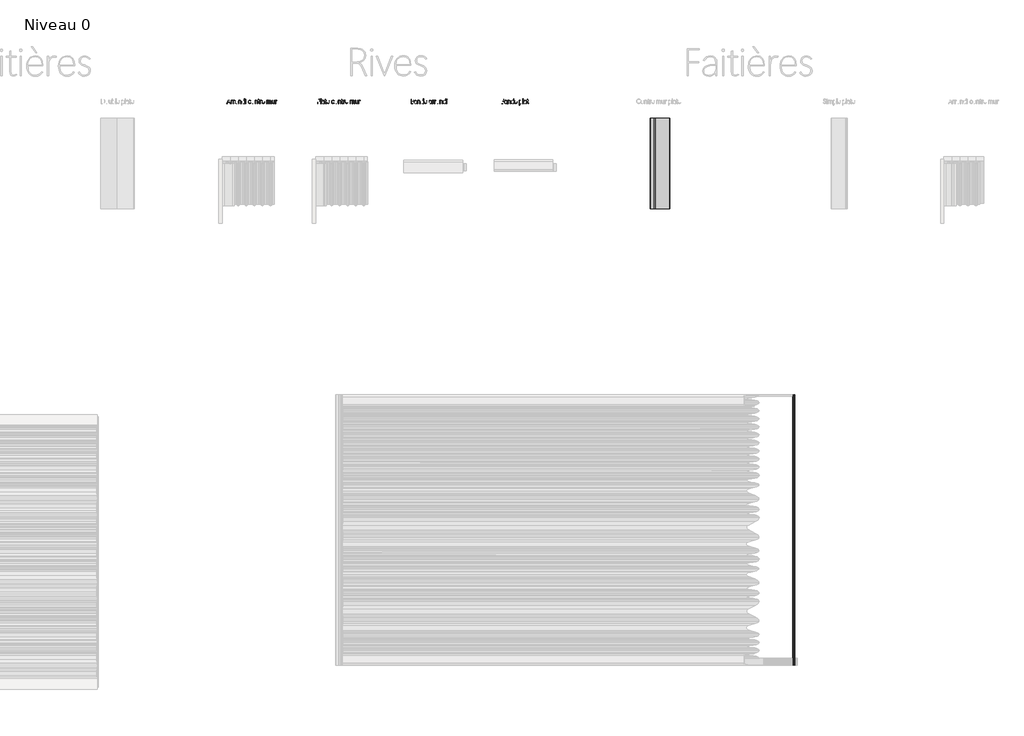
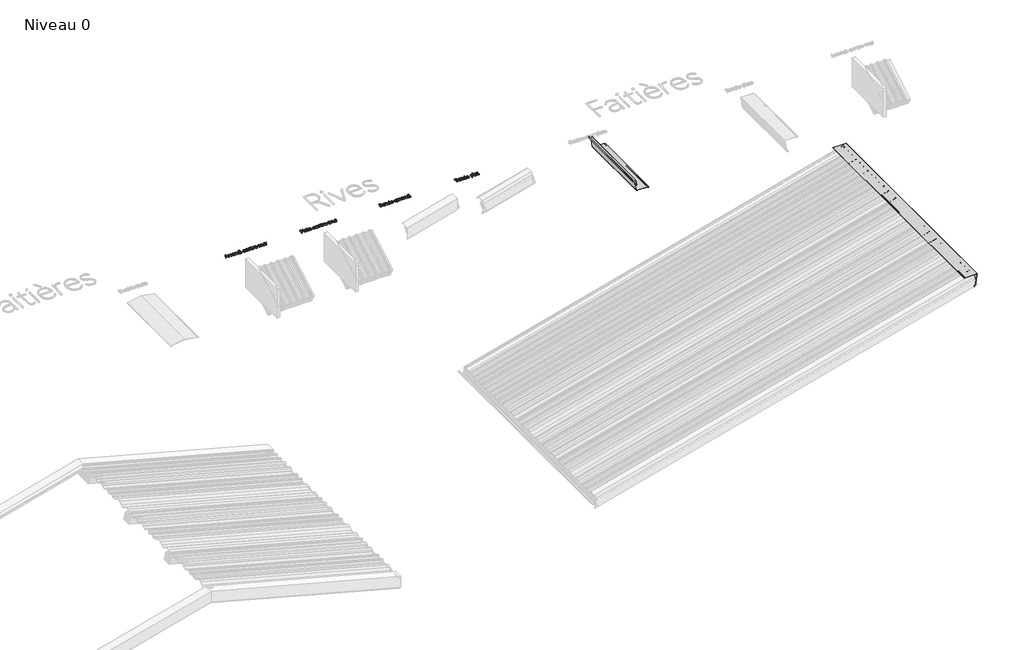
# One storey, part 19 of 26: 6 proxies.
"""IFC4 building model written with IfcOpenShell, lengths in millimetres."""

import ifcopenshell
import ifcopenshell.guid

model = None  # the IFC model being written
_history = None  # IfcOwnerHistory: only IFC2X3 demands one
_inside = {}  # id of a spatial element -> (the spatial element, [elements in it])
_under = {}  # id of a project, library or spatial element -> (it, [spatial elements below it])
_declared = {}  # id of a project -> (the project, [libraries it declares])
_typed = {}  # id of a type object -> (the type object, [elements of that type])
_made_of = {}  # id of a material, layer set ... -> (it, [elements and type objects made of it])


def new_model(schema):
    """Start an empty IFC model of exactly this schema.

    Asked for "IFC4X3", IfcOpenShell would pick the latest addendum, in which some entities
    have other attributes; the version numbers below select the first issue.
    IFC2X3 requires an IfcOwnerHistory on every rooted entity: one is made here for all.
    """
    global model, _history
    if schema == "IFC4X3":
        model = ifcopenshell.file(schema_version=(4, 3, 0, 0))
    else:
        model = ifcopenshell.file(schema=schema)
    _inside.clear()
    _under.clear()
    _declared.clear()
    _typed.clear()
    _made_of.clear()
    _history = None
    if model.schema == "IFC2X3":
        org = make("IfcOrganization", Name="unknown")
        user = make(
            "IfcPersonAndOrganization",
            ThePerson=make("IfcPerson", FamilyName="unknown"),
            TheOrganization=org,
        )
        app = make(
            "IfcApplication",
            ApplicationDeveloper=org,
            Version="unknown",
            ApplicationFullName="unknown",
            ApplicationIdentifier="unknown",
        )
        _history = make(
            "IfcOwnerHistory",
            OwningUser=user,
            OwningApplication=app,
            ChangeAction="ADDED",
            CreationDate=0,
        )
    return model


def make(cls, **values):
    """One entity of the class cls with the attributes given. An attribute that is None is left unset."""
    return model.create_entity(
        cls, **{name: value for name, value in values.items() if value is not None}
    )


def rooted(cls, **values):
    """An entity with a GlobalId (a new one), such as an element, a storey or a relation."""
    return make(cls, GlobalId=ifcopenshell.guid.new(), OwnerHistory=_history, **values)


def si_unit(unit_type, name, prefix=None):
    """IfcSIUnit, for example si_unit("LENGTHUNIT", "METRE", prefix="MILLI")."""
    return make("IfcSIUnit", UnitType=unit_type, Prefix=prefix, Name=name)


def assignment(units):
    """IfcUnitAssignment: the units of a project."""
    return None if units is None else make("IfcUnitAssignment", Units=units)


def point(xyz):
    """IfcCartesianPoint."""
    return None if xyz is None else make("IfcCartesianPoint", Coordinates=xyz)


def direction(xyz):
    """IfcDirection."""
    return None if xyz is None else make("IfcDirection", DirectionRatios=xyz)


def frame(location, z_axis=None, x_axis=None):
    """IfcAxis2Placement3D, a coordinate frame: its origin and axes. An axis left out is left unset."""
    return make(
        "IfcAxis2Placement3D",
        Location=point(location),
        Axis=direction(z_axis),
        RefDirection=direction(x_axis),
    )


def frame_2d(location, x_axis=None):
    """IfcAxis2Placement2D, a coordinate frame in the plane: its origin and x axis."""
    return make(
        "IfcAxis2Placement2D", Location=point(location), RefDirection=direction(x_axis)
    )


def origin():
    """The frame at (0, 0, 0) with its axes left unset."""
    return frame((0.0, 0.0, 0.0))


def origin_with_axes():
    """The frame at (0, 0, 0) with the z axis (0, 0, 1) and the x axis (1, 0, 0) written out."""
    return frame((0.0, 0.0, 0.0), z_axis=(0.0, 0.0, 1.0), x_axis=(1.0, 0.0, 0.0))


def place(relative_to, where):
    """IfcLocalPlacement: puts the frame where relative to a parent placement (None: the world)."""
    return make(
        "IfcLocalPlacement", PlacementRelTo=relative_to, RelativePlacement=where
    )


def context(
    kind, dimensions, precision=None, world=None, true_north=None, identifier=None
):
    """IfcGeometricRepresentationContext, for example the 3D "Model" context."""
    return make(
        "IfcGeometricRepresentationContext",
        ContextIdentifier=identifier,
        ContextType=kind,
        CoordinateSpaceDimension=dimensions,
        Precision=precision,
        WorldCoordinateSystem=world,
        TrueNorth=true_north,
    )


def project(units=None, contexts=None):
    """IfcProject with its units and contexts."""
    return rooted(
        "IfcProject",
        Name="project",
        RepresentationContexts=contexts,
        UnitsInContext=assignment(units),
    )


def spatial(cls, under=None, at=None, **own):
    """A site, building, storey or space (cls), placed at a placement, below another one or the project."""
    s = rooted(cls, ObjectPlacement=at, **own)
    if under is not None:
        _under.setdefault(under.id(), (under, []))[1].append(s)
    return s


def polyline(points):
    """IfcPolyline through the points."""
    return make("IfcPolyline", Points=[point(p) for p in points])


def circle_curve(where, radius):
    """IfcCircle in the frame where."""
    return make("IfcCircle", Position=where, Radius=radius)


def trimmed(basis, trim1, trim2, sense, master):
    """IfcTrimmedCurve: the piece of a basis curve between two trims."""
    return make(
        "IfcTrimmedCurve",
        BasisCurve=basis,
        Trim1=trim1,
        Trim2=trim2,
        SenseAgreement=sense,
        MasterRepresentation=master,
    )


def segment(curve, same_sense, transition):
    """IfcCompositeCurveSegment."""
    return make(
        "IfcCompositeCurveSegment",
        Transition=transition,
        SameSense=same_sense,
        ParentCurve=curve,
    )


def composite_curve(segments, self_intersect=None):
    """IfcCompositeCurve: segments joined end to end."""
    return make("IfcCompositeCurve", Segments=segments, SelfIntersect=self_intersect)


def outline(outer, holes=None, kind="AREA"):
    """IfcArbitraryClosedProfileDef: a profile drawn as a closed curve; with holes, ...WithVoids."""
    if holes is None:
        return make("IfcArbitraryClosedProfileDef", ProfileType=kind, OuterCurve=outer)
    return make(
        "IfcArbitraryProfileDefWithVoids",
        ProfileType=kind,
        OuterCurve=outer,
        InnerCurves=holes,
    )


def extrude(swept, where, along, depth):
    """IfcExtrudedAreaSolid: the profile swept, set in the frame where, extruded along a direction by depth."""
    return make(
        "IfcExtrudedAreaSolid",
        SweptArea=swept,
        Position=where,
        ExtrudedDirection=direction(along),
        Depth=depth,
    )


def shape(context_of_items, identifier, shape_type, items):
    """IfcShapeRepresentation: the items that make up one representation, for example the "Body"."""
    return make(
        "IfcShapeRepresentation",
        ContextOfItems=context_of_items,
        RepresentationIdentifier=identifier,
        RepresentationType=shape_type,
        Items=items,
    )


def source(mapping_origin, context_of_items, identifier, shape_type, items):
    """IfcRepresentationMap: a shape defined once, which mapped items show again and again."""
    return make(
        "IfcRepresentationMap",
        MappingOrigin=mapping_origin,
        MappedRepresentation=shape(context_of_items, identifier, shape_type, items),
    )


def transform(
    local_origin,
    x_axis=None,
    y_axis=None,
    z_axis=None,
    scale=None,
    scale2=None,
    scale3=None,
    uniform=True,
):
    """IfcCartesianTransformationOperator3D, or its non-uniform kind. x_axis, y_axis, z_axis: its Axis1, 2, 3."""
    if uniform:
        return make(
            "IfcCartesianTransformationOperator3D",
            Axis1=direction(x_axis),
            Axis2=direction(y_axis),
            LocalOrigin=point(local_origin),
            Scale=scale,
            Axis3=direction(z_axis),
        )
    return make(
        "IfcCartesianTransformationOperator3DnonUniform",
        Axis1=direction(x_axis),
        Axis2=direction(y_axis),
        LocalOrigin=point(local_origin),
        Scale=scale,
        Axis3=direction(z_axis),
        Scale2=scale2,
        Scale3=scale3,
    )


def mapped(mapping_source, mapping_target):
    """IfcMappedItem: shows the shape of a source again, moved by a transform."""
    return make(
        "IfcMappedItem", MappingSource=mapping_source, MappingTarget=mapping_target
    )


def made_of(thing, what):
    """Note that an element or type object is made of a material, layer set ...; save() writes the relation."""
    if what is not None:
        _made_of.setdefault(what.id(), (what, []))[1].append(thing)
    return thing


def element(
    cls,
    number,
    at=None,
    inside=None,
    cuts=None,
    type_object=None,
    material=None,
    context=None,
    identifier="Body",
    shape_type=None,
    held_by="IfcProductDefinitionShape",
    body=None,
    shapes=None,
    **own,
):
    """One element of the class cls, such as IfcWall. Its Tag is "e" and its number.

    at: its placement. inside: the storey or other place that contains it. cuts: it is an
    opening in that element (IfcRelVoidsElement). A single representation is given by context,
    identifier, shape_type and body (its items); several are given by shapes. held_by: the class
    of the entity that holds the representations. save() writes the other relations.
    """
    e = rooted(cls, Tag="e%d" % number, ObjectPlacement=at, **own)
    if body is not None:
        shapes = [shape(context, identifier, shape_type, body)]
    if shapes is not None:
        e.Representation = make(held_by, Representations=shapes)
    if inside is not None:
        _inside.setdefault(inside.id(), (inside, []))[1].append(e)
    if cuts is not None:
        rooted(
            "IfcRelVoidsElement", RelatingBuildingElement=cuts, RelatedOpeningElement=e
        )
    if type_object is not None:
        _typed.setdefault(type_object.id(), (type_object, []))[1].append(e)
    return made_of(e, material)


def aggregate(whole, parts):
    """IfcRelAggregates: a whole, such as a stair, and the parts it consists of."""
    return rooted("IfcRelAggregates", RelatingObject=whole, RelatedObjects=parts)


def save(model, path):
    """Write the relations noted so far, then the file.

    IfcRelAggregates (storeys below a building ...), IfcRelContainedInSpatialStructure (elements
    in a storey), IfcRelDefinesByType, IfcRelAssociatesMaterial and IfcRelDeclares: one each for
    every whole, place, type object, material and project.
    """
    for whole, parts in _under.values():
        aggregate(whole, parts)
    for where, things in _inside.values():
        rooted(
            "IfcRelContainedInSpatialStructure",
            RelatedElements=things,
            RelatingStructure=where,
        )
    for kind, things in _typed.values():
        rooted("IfcRelDefinesByType", RelatedObjects=things, RelatingType=kind)
    for what, things in _made_of.values():
        rooted("IfcRelAssociatesMaterial", RelatedObjects=things, RelatingMaterial=what)
    for by, libraries in _declared.values():
        rooted("IfcRelDeclares", RelatingContext=by, RelatedDefinitions=libraries)
    model.write(path)


def generic_models_b33f6de4(model_context):
    return source(origin(), model_context, "Body", "SweptSolid", [
        extrude(outline(composite_curve([segment(trimmed(circle_curve(frame_2d((159.2523227, -15.3193216)), 1.0), [point((159.3394785, -14.3231269))], [point((159.165167, -16.3155163))], False, "CARTESIAN"), True, "CONTINUOUS"), segment(polyline([(159.165167, -16.3155163), (144.2222465, -15.0081801)]), True, "CONTINUOUS"), segment(trimmed(circle_curve(frame_2d((144.2658244, -14.5100828)), 0.5), [point((144.2222465, -15.0081801))], [point((144.3094023, -14.0119854))], False, "CARTESIAN"), True, "CONTINUOUS"), segment(polyline([(144.3094023, -14.0119854), (-8.8420578, -0.6129689), (-26.3680606, 98.7819319), (-25.3832528, 98.9555801), (-7.990495, 0.3163489), (159.3394785, -14.3231269)]), True, "CONTINUOUS")], self_intersect=False)), frame((0.0, 0.0, 0.0), z_axis=(1.0, 0.0, 0.0), x_axis=(0.0, 1.0, 0.0)), (0.0, 0.0, 1.0), 1000.0),
        extrude(outline(composite_curve([segment(trimmed(circle_curve(frame_2d((-0.6113232, 65.7209859)), 1.3755384), [point((0.7433177, 65.9598456))], [point((-1.6650468, 64.8368068))], False, "CARTESIAN"), True, "CONTINUOUS"), segment(polyline([(-1.6650468, 64.8368068), (-9.292635, 73.9270124), (-8.5265905, 74.5698), (-0.8990024, 65.4795944)]), True, "CONTINUOUS"), segment(trimmed(circle_curve(frame_2d((-0.6113232, 65.7209859)), 0.3755384), [point((-0.8990024, 65.4795944))], [point((-0.2414901, 65.7861974))], True, "CARTESIAN"), True, "CONTINUOUS"), segment(polyline([(-0.2414901, 65.7861974), (-13.1023209, 138.7235936), (-52.494631, 131.7776665), (-57.1831318, 158.3674758), (-56.1983241, 158.541124), (-51.6834715, 132.9361224), (-12.2911613, 139.8820495), (0.7433177, 65.9598456)]), True, "CONTINUOUS")], self_intersect=False)), frame((0.0, 0.0, 0.0), z_axis=(1.0, 0.0, 0.0), x_axis=(0.0, 1.0, 0.0)), (0.0, 0.0, 1.0), 1000.0),
    ])


def generic_models_05276f24(model_context):
    return source(origin(), model_context, "Body", "SweptSolid", [
        extrude(outline(composite_curve([segment(trimmed(circle_curve(frame_2d((165.9940784, -0.6836511)), 1.0), [point((165.9940784, 0.3163489))], [point((165.9940784, -1.6836511))], False, "CARTESIAN"), True, "CONTINUOUS"), segment(polyline([(165.9940784, -1.6836511), (150.9940784, -1.6836511)]), True, "CONTINUOUS"), segment(trimmed(circle_curve(frame_2d((150.9940784, -1.1836511)), 0.5), [point((150.9940784, -1.6836511))], [point((150.9940784, -0.6836511))], False, "CARTESIAN"), True, "CONTINUOUS"), segment(polyline([(150.9940784, -0.6836511), (-7.814168, -0.6836511), (18.7207055, -151.1703969), (33.4928218, -148.5656742), (36.2711927, -164.3225983), (35.2863849, -164.4962465), (32.6816622, -149.7241302), (17.909546, -152.3288528), (-9.0059216, 0.3163489), (165.9940784, 0.3163489)]), True, "CONTINUOUS")], self_intersect=False)), frame((0.0, 0.0, 0.0), z_axis=(1.0, 0.0, 0.0), x_axis=(0.0, 1.0, 0.0)), (0.0, 0.0, 1.0), 3001.0),
    ])


model = new_model("IFC4")

# Units and contexts
model_context = context("Model", 3, world=origin())
ifc_project = project(units=[si_unit("LENGTHUNIT", "METRE", prefix="MILLI")], contexts=[model_context])

# Site, building, storey
site = spatial("IfcSite", under=ifc_project)
building = spatial("IfcBuilding", under=site)
storey = spatial("IfcBuildingStorey", under=building, Name="Niveau 0", Elevation=0.0)

# Proxies
placement = place(None, origin())
generic_models_shape = generic_models_b33f6de4(model_context)
element("IfcBuildingElementProxy", 1, Name="Faitiere contre mur plate : Faitiere contre mur plate", ObjectType="Faitiere contre mur plate : Faitiere contre mur plate", at=placement, inside=storey, context=model_context, shape_type="MappedRepresentation", body=[
    mapped(generic_models_shape, transform((28006.583757, -8404.4337097, 0.0), x_axis=(0.0, -1.0, 0.0), y_axis=(1.0, 0.0, 0.0), z_axis=(0.0, 0.0, 1.0))),
])
generic_models_2_shape = generic_models_05276f24(model_context)
element("IfcBuildingElementProxy", 2, Name="Faitiere simple plate : Faitiere simple plate", ObjectType="Faitiere simple plate : Faitiere simple plate", at=placement, inside=storey, context=model_context, shape_type="MappedRepresentation", body=[
    mapped(generic_models_2_shape, transform((29567.8970286, -14467.9337097, 1350.5614034), x_axis=(0.0, 1.0, 0.0), y_axis=(-1.0, 0.0, 0.0), z_axis=(0.0, 0.0, 1.0))),
])
element("IfcBuildingElementProxy", 3, Name="0.5mm", ObjectType="0.5mm", at=placement, inside=storey, context=model_context, shape_type="SweptSolid", body=[
    extrude(outline(polyline([(26301.2173677, -8239.2596825), (26301.2173677, -8189.2569805), (26313.6696919, -8189.2569805), (26323.0721637, -8192.4481675), (26326.6278453, -8201.0398249), (26324.1358927, -8208.4487346), (26317.4931654, -8213.0011972), (26325.3632723, -8217.0627079), (26328.517266, -8225.6915586), (26324.5227033, -8235.4957183), (26313.9374838, -8239.2596825), (26301.2173677, -8239.2596825)]), holes=[polyline([(26303.5233537, -8191.4141931), (26303.5233537, -8212.2722081), (26311.1107914, -8212.2722081), (26320.6545978, -8209.237233), (26324.26235, -8201.1885981), (26321.3687096, -8193.9954097), (26313.2382494, -8191.4141931), (26303.5233537, -8191.4141931)]), polyline([(26303.5233537, -8214.3996661), (26303.5233537, -8237.0578378), (26313.5953053, -8237.0578378), (26322.8043718, -8234.0600561), (26326.1517708, -8225.8700866), (26322.246472, -8217.2561132), (26311.3339513, -8214.3996661), (26303.5233537, -8214.3996661)])]), origin_with_axes(), (0.0, 0.0, 1.0), 10.0),
    extrude(outline(polyline([(26361.4705493, -8239.2596825), (26359.2984593, -8239.2596825), (26359.2984593, -8232.3863566), (26354.0542009, -8237.9356002), (26346.5039565, -8240.0928129), (26338.470199, -8237.3033137), (26335.6286292, -8230.1547573), (26338.7305522, -8222.8871822), (26348.4677639, -8219.145534), (26359.3430913, -8217.6131691), (26359.3430913, -8215.5154658), (26356.6056628, -8207.4817082), (26349.196753, -8204.7442797), (26342.9705909, -8206.4179792), (26338.4850763, -8211.364691), (26336.5063916, -8210.2488914), (26341.9217393, -8204.6178224), (26349.196753, -8202.676331), (26358.1380276, -8206.0088527), (26361.4705493, -8215.5452204), (26361.4705493, -8239.2596825)]), holes=[polyline([(26359.2984593, -8225.3493801), (26359.2984593, -8219.6662405), (26348.7355558, -8221.094464), (26340.4935157, -8224.0699298), (26337.8602285, -8230.095248), (26340.2480398, -8235.9494768), (26346.6824845, -8238.1141282), (26355.5568111, -8234.4319893), (26359.2984593, -8225.3493801)])]), origin_with_axes(), (0.0, 0.0, 1.0), 10.0),
    extrude(outline(polyline([(26398.3960793, -8239.2596825), (26396.2686213, -8239.2596825), (26396.2686213, -8217.018076), (26393.5460701, -8207.9652214), (26385.9735098, -8204.7442797), (26377.4041684, -8208.19582), (26374.0865241, -8217.018076), (26374.0865241, -8239.2596825), (26371.9293114, -8239.2596825), (26371.9293114, -8203.5540934), (26374.0865241, -8203.5540934), (26374.0865241, -8209.6537982), (26378.9886039, -8204.4764878), (26386.0925284, -8202.676331), (26395.1676989, -8206.4626112), (26398.3960793, -8216.8097934), (26398.3960793, -8239.2596825)])), origin_with_axes(), (0.0, 0.0, 1.0), 10.0),
    extrude(outline(polyline([(26433.7966831, -8231.5532262), (26428.5821794, -8237.8314589), (26420.6674405, -8240.0928129), (26409.6805332, -8235.1237851), (26405.5371971, -8221.9275945), (26410.260749, -8207.8387641), (26421.9915227, -8202.676331), (26429.0136219, -8204.4021012), (26433.7446125, -8209.3116197), (26433.8487538, -8186.4005334), (26436.0059664, -8186.4005334), (26436.0059664, -8239.2596825), (26433.8487538, -8239.2596825), (26433.7966831, -8231.5532262)]), holes=[polyline([(26407.7687964, -8221.7936985), (26411.3765486, -8233.7699482), (26420.7269498, -8238.0397415), (26430.2707562, -8233.9410374), (26433.8487538, -8223.6087326), (26433.8487538, -8216.1403136), (26430.4641615, -8208.0172921), (26421.9468907, -8204.7442797), (26411.7931138, -8209.3413743), (26407.7687964, -8221.7936985)])]), origin_with_axes(), (0.0, 0.0, 1.0), 10.0),
    extrude(outline(polyline([(26474.0324188, -8220.4770549), (26446.7622751, -8220.7374082), (26450.3402727, -8233.7476322), (26460.196503, -8238.0694962), (26466.9508103, -8236.3957967), (26471.7264328, -8231.3746982), (26473.6158536, -8232.3863566), (26468.1409966, -8238.1661988), (26460.196503, -8240.1374449), (26448.8227852, -8235.3543837), (26444.5753078, -8220.6332669), (26448.9789971, -8207.5932882), (26460.196503, -8202.676331), (26470.4023505, -8207.176723), (26474.0324188, -8220.4770549)]), holes=[polyline([(26471.8305741, -8218.7289688), (26468.5724391, -8208.2776453), (26460.1221164, -8204.7442797), (26451.0246298, -8208.3669093), (26446.8664164, -8218.7289688), (26471.8305741, -8218.7289688)])]), origin_with_axes(), (0.0, 0.0, 1.0), 10.0),
    extrude(outline(polyline([(26501.7786369, -8233.1897323), (26501.6744956, -8255.6842534), (26499.517283, -8255.6842534), (26499.517283, -8203.5540934), (26501.6744956, -8203.5540934), (26501.6744956, -8211.6771149), (26506.896438, -8205.1905996), (26515.3467608, -8202.676331), (26526.0733148, -8207.5784109), (26530.0306843, -8220.320843), (26525.7013816, -8234.9303798), (26514.1565745, -8240.0928129), (26506.4947501, -8238.1587601), (26501.7786369, -8233.1897323)]), holes=[polyline([(26501.6744956, -8219.7257498), (26501.6744956, -8226.0783692), (26505.1781066, -8234.5361306), (26514.2012065, -8238.0397415), (26524.0648754, -8233.5616656), (26527.799085, -8220.3654749), (26524.3772993, -8209.0140731), (26515.2426195, -8204.7442797), (26505.2673705, -8209.1554077), (26501.6744956, -8219.7257498)])]), origin_with_axes(), (0.0, 0.0, 1.0), 10.0),
    extrude(outline(polyline([(26538.5553937, -8239.2596825), (26538.5553937, -8186.4005334), (26540.7126063, -8186.4005334), (26540.7126063, -8239.2596825), (26538.5553937, -8239.2596825)])), origin_with_axes(), (0.0, 0.0, 1.0), 10.0),
    extrude(outline(polyline([(26575.7040836, -8239.2596825), (26573.5319936, -8239.2596825), (26573.5319936, -8232.3863566), (26568.2877352, -8237.9356002), (26560.7374909, -8240.0928129), (26552.7037333, -8237.3033137), (26549.8621635, -8230.1547573), (26552.9640866, -8222.8871822), (26562.7012983, -8219.145534), (26573.5766256, -8217.6131691), (26573.5766256, -8215.5154658), (26570.8391971, -8207.4817082), (26563.4302874, -8204.7442797), (26557.2041253, -8206.4179792), (26552.7186106, -8211.364691), (26550.7399259, -8210.2488914), (26556.1552736, -8204.6178224), (26563.4302874, -8202.676331), (26572.371562, -8206.0088527), (26575.7040836, -8215.5452204), (26575.7040836, -8239.2596825)]), holes=[polyline([(26573.5319936, -8225.3493801), (26573.5319936, -8219.6662405), (26562.9690902, -8221.094464), (26554.72705, -8224.0699298), (26552.0937628, -8230.095248), (26554.4815741, -8235.9494768), (26560.9160188, -8238.1141282), (26569.7903454, -8234.4319893), (26573.5319936, -8225.3493801)])]), origin_with_axes(), (0.0, 0.0, 1.0), 10.0),
    extrude(outline(polyline([(26600.8021372, -8237.519035), (26597.8638648, -8239.3861398), (26594.6280458, -8239.9589169), (26589.59207, -8238.0025482), (26587.9034932, -8232.1483193), (26587.9034932, -8205.5476555), (26581.3574685, -8205.5476555), (26581.3574685, -8203.5540934), (26587.9034932, -8203.5540934), (26587.9034932, -8193.9582164), (26590.0607059, -8193.5862831), (26590.0607059, -8203.5540934), (26599.7904789, -8203.5540934), (26599.7904789, -8205.5476555), (26590.0607059, -8205.5476555), (26590.0607059, -8231.999546), (26591.2508922, -8236.4850607), (26594.7768191, -8237.9653549), (26597.2315783, -8237.496719), (26599.5524416, -8235.9420382), (26600.8021372, -8237.519035)])), origin_with_axes(), (0.0, 0.0, 1.0), 10.0),
])
element("IfcBuildingElementProxy", 4, Name="0.5mm", ObjectType="0.5mm", at=placement, inside=storey, context=model_context, shape_type="SweptSolid", body=[
    extrude(outline(polyline([(25301.2173677, -8239.2596825), (25301.2173677, -8189.2569805), (25313.6696919, -8189.2569805), (25323.0721637, -8192.4481675), (25326.6278453, -8201.0398249), (25324.1358927, -8208.4487346), (25317.4931654, -8213.0011972), (25325.3632723, -8217.0627079), (25328.517266, -8225.6915586), (25324.5227033, -8235.4957183), (25313.9374838, -8239.2596825), (25301.2173677, -8239.2596825)]), holes=[polyline([(25303.5233537, -8191.4141931), (25303.5233537, -8212.2722081), (25311.1107914, -8212.2722081), (25320.6545978, -8209.237233), (25324.26235, -8201.1885981), (25321.3687096, -8193.9954097), (25313.2382494, -8191.4141931), (25303.5233537, -8191.4141931)]), polyline([(25303.5233537, -8214.3996661), (25303.5233537, -8237.0578378), (25313.5953053, -8237.0578378), (25322.8043718, -8234.0600561), (25326.1517708, -8225.8700866), (25322.246472, -8217.2561132), (25311.3339513, -8214.3996661), (25303.5233537, -8214.3996661)])]), origin_with_axes(), (0.0, 0.0, 1.0), 10.0),
    extrude(outline(polyline([(25361.4705493, -8239.2596825), (25359.2984593, -8239.2596825), (25359.2984593, -8232.3863566), (25354.0542009, -8237.9356002), (25346.5039565, -8240.0928129), (25338.470199, -8237.3033137), (25335.6286292, -8230.1547573), (25338.7305522, -8222.8871822), (25348.4677639, -8219.145534), (25359.3430913, -8217.6131691), (25359.3430913, -8215.5154658), (25356.6056628, -8207.4817082), (25349.196753, -8204.7442797), (25342.9705909, -8206.4179792), (25338.4850763, -8211.364691), (25336.5063916, -8210.2488914), (25341.9217393, -8204.6178224), (25349.196753, -8202.676331), (25358.1380276, -8206.0088527), (25361.4705493, -8215.5452204), (25361.4705493, -8239.2596825)]), holes=[polyline([(25359.2984593, -8225.3493801), (25359.2984593, -8219.6662405), (25348.7355558, -8221.094464), (25340.4935157, -8224.0699298), (25337.8602285, -8230.095248), (25340.2480398, -8235.9494768), (25346.6824845, -8238.1141282), (25355.5568111, -8234.4319893), (25359.2984593, -8225.3493801)])]), origin_with_axes(), (0.0, 0.0, 1.0), 10.0),
    extrude(outline(polyline([(25398.3960793, -8239.2596825), (25396.2686213, -8239.2596825), (25396.2686213, -8217.018076), (25393.5460701, -8207.9652214), (25385.9735098, -8204.7442797), (25377.4041684, -8208.19582), (25374.0865241, -8217.018076), (25374.0865241, -8239.2596825), (25371.9293114, -8239.2596825), (25371.9293114, -8203.5540934), (25374.0865241, -8203.5540934), (25374.0865241, -8209.6537982), (25378.9886039, -8204.4764878), (25386.0925284, -8202.676331), (25395.1676989, -8206.4626112), (25398.3960793, -8216.8097934), (25398.3960793, -8239.2596825)])), origin_with_axes(), (0.0, 0.0, 1.0), 10.0),
    extrude(outline(polyline([(25433.7966831, -8231.5532262), (25428.5821794, -8237.8314589), (25420.6674405, -8240.0928129), (25409.6805332, -8235.1237851), (25405.5371971, -8221.9275945), (25410.260749, -8207.8387641), (25421.9915227, -8202.676331), (25429.0136219, -8204.4021012), (25433.7446125, -8209.3116197), (25433.8487538, -8186.4005334), (25436.0059664, -8186.4005334), (25436.0059664, -8239.2596825), (25433.8487538, -8239.2596825), (25433.7966831, -8231.5532262)]), holes=[polyline([(25407.7687964, -8221.7936985), (25411.3765486, -8233.7699482), (25420.7269498, -8238.0397415), (25430.2707562, -8233.9410374), (25433.8487538, -8223.6087326), (25433.8487538, -8216.1403136), (25430.4641615, -8208.0172921), (25421.9468907, -8204.7442797), (25411.7931138, -8209.3413743), (25407.7687964, -8221.7936985)])]), origin_with_axes(), (0.0, 0.0, 1.0), 10.0),
    extrude(outline(polyline([(25474.0324188, -8220.4770549), (25446.7622751, -8220.7374082), (25450.3402727, -8233.7476322), (25460.196503, -8238.0694962), (25466.9508103, -8236.3957967), (25471.7264328, -8231.3746982), (25473.6158536, -8232.3863566), (25468.1409966, -8238.1661988), (25460.196503, -8240.1374449), (25448.8227852, -8235.3543837), (25444.5753078, -8220.6332669), (25448.9789971, -8207.5932882), (25460.196503, -8202.676331), (25470.4023505, -8207.176723), (25474.0324188, -8220.4770549)]), holes=[polyline([(25471.8305741, -8218.7289688), (25468.5724391, -8208.2776453), (25460.1221164, -8204.7442797), (25451.0246298, -8208.3669093), (25446.8664164, -8218.7289688), (25471.8305741, -8218.7289688)])]), origin_with_axes(), (0.0, 0.0, 1.0), 10.0),
    extrude(outline(polyline([(25523.3358863, -8239.2596825), (25521.1637963, -8239.2596825), (25521.1637963, -8232.3863566), (25515.9195379, -8237.9356002), (25508.3692936, -8240.0928129), (25500.335536, -8237.3033137), (25497.4939662, -8230.1547573), (25500.5958893, -8222.8871822), (25510.333101, -8219.145534), (25521.2084283, -8217.6131691), (25521.2084283, -8215.5154658), (25518.4709998, -8207.4817082), (25511.0620901, -8204.7442797), (25504.835928, -8206.4179792), (25500.3504134, -8211.364691), (25498.3717286, -8210.2488914), (25503.7870763, -8204.6178224), (25511.0620901, -8202.676331), (25520.0033647, -8206.0088527), (25523.3358863, -8215.5452204), (25523.3358863, -8239.2596825)]), holes=[polyline([(25521.1637963, -8225.3493801), (25521.1637963, -8219.6662405), (25510.6008929, -8221.094464), (25502.3588527, -8224.0699298), (25499.7255656, -8230.095248), (25502.1133768, -8235.9494768), (25508.5478215, -8238.1141282), (25517.4221481, -8234.4319893), (25521.1637963, -8225.3493801)])]), origin_with_axes(), (0.0, 0.0, 1.0), 10.0),
    extrude(outline(polyline([(25549.5943716, -8205.5476555), (25547.8686015, -8204.960001), (25546.1428313, -8204.803789), (25538.8008696, -8209.0066344), (25535.9221065, -8221.1242187), (25535.9221065, -8239.2596825), (25533.7946484, -8239.2596825), (25533.7946484, -8203.5540934), (25535.9221065, -8203.5540934), (25535.9221065, -8211.4390777), (25539.9315466, -8205.071581), (25546.2469726, -8202.8251043), (25548.300044, -8202.9961936), (25550.427502, -8203.6582347), (25549.5943716, -8205.5476555)])), origin_with_axes(), (0.0, 0.0, 1.0), 10.0),
    extrude(outline(polyline([(25572.4459486, -8205.5476555), (25570.7201785, -8204.960001), (25568.9944083, -8204.803789), (25561.6524466, -8209.0066344), (25558.7736835, -8221.1242187), (25558.7736835, -8239.2596825), (25556.6462254, -8239.2596825), (25556.6462254, -8203.5540934), (25558.7736835, -8203.5540934), (25558.7736835, -8211.4390777), (25562.7831236, -8205.071581), (25569.0985496, -8202.8251043), (25571.151621, -8202.9961936), (25573.279079, -8203.6582347), (25572.4459486, -8205.5476555)])), origin_with_axes(), (0.0, 0.0, 1.0), 10.0),
    extrude(outline(polyline([(25593.7949154, -8240.0928129), (25581.5731898, -8234.9303798), (25576.9240246, -8221.4812746), (25581.7294018, -8207.9131508), (25593.9288113, -8202.676331), (25606.0687116, -8207.9280281), (25610.6658062, -8221.406888), (25606.0092023, -8234.8783092), (25593.7949154, -8240.0928129)]), holes=[polyline([(25593.869302, -8238.0397415), (25604.4619601, -8233.4054536), (25608.4342069, -8221.3771333), (25604.4768374, -8209.3636903), (25593.9288113, -8204.7442797), (25583.2468893, -8209.4455156), (25579.1556239, -8221.5110293), (25583.1799413, -8233.4575243), (25593.869302, -8238.0397415)])]), origin_with_axes(), (0.0, 0.0, 1.0), 10.0),
    extrude(outline(polyline([(25645.002681, -8239.2596825), (25642.875223, -8239.2596825), (25642.875223, -8217.018076), (25640.1526718, -8207.9652214), (25632.5801115, -8204.7442797), (25624.0107701, -8208.19582), (25620.6931258, -8217.018076), (25620.6931258, -8239.2596825), (25618.5359131, -8239.2596825), (25618.5359131, -8203.5540934), (25620.6931258, -8203.5540934), (25620.6931258, -8209.6537982), (25625.5952056, -8204.4764878), (25632.6991301, -8202.676331), (25641.7743007, -8206.4626112), (25645.002681, -8216.8097934), (25645.002681, -8239.2596825)])), origin_with_axes(), (0.0, 0.0, 1.0), 10.0),
    extrude(outline(polyline([(25680.4032848, -8231.5532262), (25675.1887811, -8237.8314589), (25667.2740422, -8240.0928129), (25656.2871349, -8235.1237851), (25652.1437988, -8221.9275945), (25656.8673507, -8207.8387641), (25668.5981245, -8202.676331), (25675.6202236, -8204.4021012), (25680.3512142, -8209.3116197), (25680.4553555, -8186.4005334), (25682.6125682, -8186.4005334), (25682.6125682, -8239.2596825), (25680.4553555, -8239.2596825), (25680.4032848, -8231.5532262)]), holes=[polyline([(25654.3753981, -8221.7936985), (25657.9831504, -8233.7699482), (25667.3335515, -8238.0397415), (25676.8773579, -8233.9410374), (25680.4553555, -8223.6087326), (25680.4553555, -8216.1403136), (25677.0707632, -8208.0172921), (25668.5534925, -8204.7442797), (25658.3997156, -8209.3413743), (25654.3753981, -8221.7936985)])]), origin_with_axes(), (0.0, 0.0, 1.0), 10.0),
    extrude(outline(polyline([(25694.6334498, -8194.8359788), (25692.989505, -8194.211131), (25692.3274638, -8192.5746248), (25692.989505, -8190.93068), (25694.6334498, -8190.2983935), (25696.314588, -8190.93068), (25696.9245584, -8192.5746248), (25696.314588, -8194.211131), (25694.6334498, -8194.8359788)])), origin_with_axes(), (0.0, 0.0, 1.0), 10.0),
    extrude(outline(polyline([(25695.7492495, -8239.2596825), (25693.5771595, -8239.2596825), (25693.5771595, -8203.5540934), (25695.7492495, -8203.5540934), (25695.7492495, -8239.2596825)])), origin_with_axes(), (0.0, 0.0, 1.0), 10.0),
])
element("IfcBuildingElementProxy", 5, Name="0.5mm", ObjectType="0.5mm", at=placement, inside=storey, context=model_context, shape_type="SweptSolid", body=[
    extrude(outline(polyline([(23256.8583104, -8239.2596825), (23275.5442354, -8189.2569805), (23277.5377974, -8189.2569805), (23295.9410531, -8239.2596825), (23293.4714165, -8239.2596825), (23287.5353623, -8223.1177808), (23265.3235105, -8223.1177808), (23259.327947, -8239.2596825), (23256.8583104, -8239.2596825)]), holes=[polyline([(23266.1268862, -8220.9159361), (23286.7022319, -8220.9159361), (23277.879976, -8196.8890501), (23277.1509869, -8194.7987854), (23276.5261391, -8192.8870487), (23275.7153246, -8194.8211014), (23274.9937742, -8196.8295408), (23266.1268862, -8220.9159361)])]), origin_with_axes(), (0.0, 0.0, 1.0), 10.0),
    extrude(outline(polyline([(23319.1645633, -8205.5476555), (23317.4387932, -8204.960001), (23315.713023, -8204.803789), (23308.3710613, -8209.0066344), (23305.4922982, -8221.1242187), (23305.4922982, -8239.2596825), (23303.3648402, -8239.2596825), (23303.3648402, -8203.5540934), (23305.4922982, -8203.5540934), (23305.4922982, -8211.4390777), (23309.5017383, -8205.071581), (23315.8171643, -8202.8251043), (23317.8702357, -8202.9961936), (23319.9976937, -8203.6582347), (23319.1645633, -8205.5476555)])), origin_with_axes(), (0.0, 0.0, 1.0), 10.0),
    extrude(outline(polyline([(23342.0161403, -8205.5476555), (23340.2903702, -8204.960001), (23338.5646, -8204.803789), (23331.2226383, -8209.0066344), (23328.3438752, -8221.1242187), (23328.3438752, -8239.2596825), (23326.2164172, -8239.2596825), (23326.2164172, -8203.5540934), (23328.3438752, -8203.5540934), (23328.3438752, -8211.4390777), (23332.3533153, -8205.071581), (23338.6687413, -8202.8251043), (23340.7218127, -8202.9961936), (23342.8492707, -8203.6582347), (23342.0161403, -8205.5476555)])), origin_with_axes(), (0.0, 0.0, 1.0), 10.0),
    extrude(outline(polyline([(23363.3651071, -8240.0928129), (23351.1433815, -8234.9303798), (23346.4942163, -8221.4812746), (23351.2995935, -8207.9131508), (23363.4990031, -8202.676331), (23375.6389033, -8207.9280281), (23380.2359979, -8221.406888), (23375.579394, -8234.8783092), (23363.3651071, -8240.0928129)]), holes=[polyline([(23363.4394937, -8238.0397415), (23374.0321518, -8233.4054536), (23378.0043986, -8221.3771333), (23374.0470292, -8209.3636903), (23363.4990031, -8204.7442797), (23352.817081, -8209.4455156), (23348.7258156, -8221.5110293), (23352.750133, -8233.4575243), (23363.4394937, -8238.0397415)])]), origin_with_axes(), (0.0, 0.0, 1.0), 10.0),
    extrude(outline(polyline([(23414.5728727, -8239.2596825), (23412.4454147, -8239.2596825), (23412.4454147, -8217.018076), (23409.7228636, -8207.9652214), (23402.1503032, -8204.7442797), (23393.5809618, -8208.19582), (23390.2633175, -8217.018076), (23390.2633175, -8239.2596825), (23388.1061048, -8239.2596825), (23388.1061048, -8203.5540934), (23390.2633175, -8203.5540934), (23390.2633175, -8209.6537982), (23395.1653973, -8204.4764878), (23402.2693218, -8202.676331), (23411.3444924, -8206.4626112), (23414.5728727, -8216.8097934), (23414.5728727, -8239.2596825)])), origin_with_axes(), (0.0, 0.0, 1.0), 10.0),
    extrude(outline(polyline([(23449.9734765, -8231.5532262), (23444.7589728, -8237.8314589), (23436.8442339, -8240.0928129), (23425.8573266, -8235.1237851), (23421.7139905, -8221.9275945), (23426.4375424, -8207.8387641), (23438.1683162, -8202.676331), (23445.1904153, -8204.4021012), (23449.9214059, -8209.3116197), (23450.0255472, -8186.4005334), (23452.1827599, -8186.4005334), (23452.1827599, -8239.2596825), (23450.0255472, -8239.2596825), (23449.9734765, -8231.5532262)]), holes=[polyline([(23423.9455899, -8221.7936985), (23427.5533421, -8233.7699482), (23436.9037432, -8238.0397415), (23446.4475496, -8233.9410374), (23450.0255472, -8223.6087326), (23450.0255472, -8216.1403136), (23446.6409549, -8208.0172921), (23438.1236842, -8204.7442797), (23427.9699073, -8209.3413743), (23423.9455899, -8221.7936985)])]), origin_with_axes(), (0.0, 0.0, 1.0), 10.0),
    extrude(outline(polyline([(23464.2036415, -8194.8359788), (23462.5596967, -8194.211131), (23461.8976556, -8192.5746248), (23462.5596967, -8190.93068), (23464.2036415, -8190.2983935), (23465.8847797, -8190.93068), (23466.4947501, -8192.5746248), (23465.8847797, -8194.211131), (23464.2036415, -8194.8359788)])), origin_with_axes(), (0.0, 0.0, 1.0), 10.0),
    extrude(outline(polyline([(23465.3194412, -8239.2596825), (23463.1473512, -8239.2596825), (23463.1473512, -8203.5540934), (23465.3194412, -8203.5540934), (23465.3194412, -8239.2596825)])), origin_with_axes(), (0.0, 0.0, 1.0), 10.0),
    extrude(outline(polyline([(23521.1391787, -8233.4426469), (23515.8428497, -8238.3521654), (23508.2405347, -8240.0928129), (23496.7031662, -8235.0196438), (23492.1730196, -8221.4812746), (23496.8742555, -8207.7495001), (23508.7612412, -8202.676331), (23515.790779, -8204.3202759), (23521.0647921, -8209.2074784), (23519.3687766, -8210.3827873), (23514.6377861, -8206.02373), (23508.7314865, -8204.6996477), (23498.4438137, -8209.1851624), (23494.4046189, -8221.5110293), (23498.3396724, -8233.5393496), (23508.3149213, -8238.0397415), (23514.72705, -8236.5743246), (23519.4282859, -8232.178074), (23521.1391787, -8233.4426469)])), origin_with_axes(), (0.0, 0.0, 1.0), 10.0),
    extrude(outline(polyline([(23543.3212759, -8240.0928129), (23531.0995503, -8234.9303798), (23526.4503851, -8221.4812746), (23531.2557623, -8207.9131508), (23543.4551719, -8202.676331), (23555.5950722, -8207.9280281), (23560.1921668, -8221.406888), (23555.5355629, -8234.8783092), (23543.3212759, -8240.0928129)]), holes=[polyline([(23543.3956626, -8238.0397415), (23553.9883207, -8233.4054536), (23557.9605674, -8221.3771333), (23554.003198, -8209.3636903), (23543.4551719, -8204.7442797), (23532.7732498, -8209.4455156), (23528.6819844, -8221.5110293), (23532.7063018, -8233.4575243), (23543.3956626, -8238.0397415)])]), origin_with_axes(), (0.0, 0.0, 1.0), 10.0),
    extrude(outline(polyline([(23594.5290416, -8239.2596825), (23592.4015835, -8239.2596825), (23592.4015835, -8217.018076), (23589.6790324, -8207.9652214), (23582.106472, -8204.7442797), (23573.5371307, -8208.19582), (23570.2194863, -8217.018076), (23570.2194863, -8239.2596825), (23568.0622737, -8239.2596825), (23568.0622737, -8203.5540934), (23570.2194863, -8203.5540934), (23570.2194863, -8209.6537982), (23575.1215662, -8204.4764878), (23582.2254907, -8202.676331), (23591.3006612, -8206.4626112), (23594.5290416, -8216.8097934), (23594.5290416, -8239.2596825)])), origin_with_axes(), (0.0, 0.0, 1.0), 10.0),
    extrude(outline(polyline([(23618.8832288, -8237.519035), (23615.9449563, -8239.3861398), (23612.7091373, -8239.9589169), (23607.6731615, -8238.0025482), (23605.9845847, -8232.1483193), (23605.9845847, -8205.5476555), (23599.4385601, -8205.5476555), (23599.4385601, -8203.5540934), (23605.9845847, -8203.5540934), (23605.9845847, -8193.9582164), (23608.1417974, -8193.5862831), (23608.1417974, -8203.5540934), (23617.8715704, -8203.5540934), (23617.8715704, -8205.5476555), (23608.1417974, -8205.5476555), (23608.1417974, -8231.999546), (23609.3319837, -8236.4850607), (23612.8579106, -8237.9653549), (23615.3126699, -8237.496719), (23617.6335331, -8235.9420382), (23618.8832288, -8237.519035)])), origin_with_axes(), (0.0, 0.0, 1.0), 10.0),
    extrude(outline(polyline([(23640.9909393, -8205.5476555), (23639.2651692, -8204.960001), (23637.539399, -8204.803789), (23630.1974373, -8209.0066344), (23627.3186742, -8221.1242187), (23627.3186742, -8239.2596825), (23625.1912162, -8239.2596825), (23625.1912162, -8203.5540934), (23627.3186742, -8203.5540934), (23627.3186742, -8211.4390777), (23631.3281143, -8205.071581), (23637.6435403, -8202.8251043), (23639.6966117, -8202.9961936), (23641.8240697, -8203.6582347), (23640.9909393, -8205.5476555)])), origin_with_axes(), (0.0, 0.0, 1.0), 10.0),
    extrude(outline(polyline([(23674.9261262, -8220.4770549), (23647.6559826, -8220.7374082), (23651.2339802, -8233.7476322), (23661.0902105, -8238.0694962), (23667.8445178, -8236.3957967), (23672.6201403, -8231.3746982), (23674.509561, -8232.3863566), (23669.0347041, -8238.1661988), (23661.0902105, -8240.1374449), (23649.7164926, -8235.3543837), (23645.4690153, -8220.6332669), (23649.8727046, -8207.5932882), (23661.0902105, -8202.676331), (23671.296058, -8207.176723), (23674.9261262, -8220.4770549)]), holes=[polyline([(23672.7242816, -8218.7289688), (23669.4661466, -8208.2776453), (23661.0158238, -8204.7442797), (23651.9183373, -8208.3669093), (23647.7601239, -8218.7289688), (23672.7242816, -8218.7289688)])]), origin_with_axes(), (0.0, 0.0, 1.0), 10.0),
    extrude(outline(polyline([(23747.0960481, -8239.2596825), (23744.9685901, -8239.2596825), (23744.9685901, -8217.018076), (23742.4915149, -8207.7420615), (23735.6256276, -8204.7442797), (23727.9414873, -8208.262768), (23724.8544416, -8217.2263586), (23724.8544416, -8239.2596825), (23722.6972289, -8239.2596825), (23722.6972289, -8216.839548), (23720.413559, -8207.9131508), (23713.6220584, -8204.7442797), (23705.6552488, -8208.1214334), (23702.5682031, -8216.973444), (23702.5682031, -8239.2596825), (23700.4109904, -8239.2596825), (23700.4109904, -8203.5540934), (23702.5682031, -8203.5540934), (23702.5682031, -8209.371129), (23707.2991937, -8204.3723465), (23713.8005863, -8202.676331), (23720.6515962, -8205.0120716), (23724.1254525, -8211.2307951), (23728.7225471, -8204.9302463), (23735.6553823, -8202.676331), (23744.150337, -8206.2915219), (23747.0960481, -8216.839548), (23747.0960481, -8239.2596825)])), origin_with_axes(), (0.0, 0.0, 1.0), 10.0),
    extrude(outline(polyline([(23783.2777117, -8239.2299278), (23781.1502537, -8239.2299278), (23781.1502537, -8233.1153457), (23776.1961032, -8238.3000948), (23769.2930227, -8240.0928129), (23760.1583428, -8236.366042), (23756.8109438, -8226.0486145), (23756.8109438, -8203.5243388), (23758.9681565, -8203.5243388), (23758.9681565, -8225.8403319), (23761.772533, -8234.7816065), (23769.4715506, -8238.0397415), (23777.8326094, -8234.5733239), (23781.1502537, -8225.7659453), (23781.1502537, -8203.5243388), (23783.2777117, -8203.5243388), (23783.2777117, -8239.2299278)])), origin_with_axes(), (0.0, 0.0, 1.0), 10.0),
    extrude(outline(polyline([(23809.5213197, -8205.5476555), (23807.7955495, -8204.960001), (23806.0697794, -8204.803789), (23798.7278176, -8209.0066344), (23795.8490545, -8221.1242187), (23795.8490545, -8239.2596825), (23793.7215965, -8239.2596825), (23793.7215965, -8203.5540934), (23795.8490545, -8203.5540934), (23795.8490545, -8211.4390777), (23799.8584946, -8205.071581), (23806.1739207, -8202.8251043), (23808.2269921, -8202.9961936), (23810.3544501, -8203.6582347), (23809.5213197, -8205.5476555)])), origin_with_axes(), (0.0, 0.0, 1.0), 10.0),
])
element("IfcBuildingElementProxy", 6, Name="0.5mm", ObjectType="0.5mm", at=placement, inside=storey, context=model_context, shape_type="SweptSolid", body=[
    extrude(outline(polyline([(24263.5233537, -8218.967006), (24263.5233537, -8239.2596825), (24261.2173677, -8239.2596825), (24261.2173677, -8189.2569805), (24271.8100258, -8189.2569805), (24283.5482382, -8193.0730153), (24287.9221729, -8203.6879894), (24283.5631156, -8214.7269673), (24271.1554234, -8218.967006), (24263.5233537, -8218.967006)]), holes=[polyline([(24263.5233537, -8191.4141931), (24263.5233537, -8216.7651614), (24271.185178, -8216.7651614), (24281.7480815, -8213.3880077), (24285.5864323, -8203.8367627), (24281.8894161, -8194.7095215), (24271.5719886, -8191.4141931), (24263.5233537, -8191.4141931)])]), origin_with_axes(), (0.0, 0.0, 1.0), 10.0),
    extrude(outline(polyline([(24297.6519459, -8239.2596825), (24297.6519459, -8186.4005334), (24299.8091586, -8186.4005334), (24299.8091586, -8239.2596825), (24297.6519459, -8239.2596825)])), origin_with_axes(), (0.0, 0.0, 1.0), 10.0),
    extrude(outline(polyline([(24334.8006359, -8239.2596825), (24332.6285459, -8239.2596825), (24332.6285459, -8232.3863566), (24327.3842875, -8237.9356002), (24319.8340431, -8240.0928129), (24311.8002856, -8237.3033137), (24308.9587158, -8230.1547573), (24312.0606388, -8222.8871822), (24321.7978505, -8219.145534), (24332.6731778, -8217.6131691), (24332.6731778, -8215.5154658), (24329.9357493, -8207.4817082), (24322.5268396, -8204.7442797), (24316.3006775, -8206.4179792), (24311.8151629, -8211.364691), (24309.8364782, -8210.2488914), (24315.2518258, -8204.6178224), (24322.5268396, -8202.676331), (24331.4681142, -8206.0088527), (24334.8006359, -8215.5452204), (24334.8006359, -8239.2596825)]), holes=[polyline([(24332.6285459, -8225.3493801), (24332.6285459, -8219.6662405), (24322.0656424, -8221.094464), (24313.8236023, -8224.0699298), (24311.1903151, -8230.095248), (24313.5781264, -8235.9494768), (24320.0125711, -8238.1141282), (24328.8868977, -8234.4319893), (24332.6285459, -8225.3493801)])]), origin_with_axes(), (0.0, 0.0, 1.0), 10.0),
    extrude(outline(polyline([(24359.8986895, -8237.519035), (24356.9604171, -8239.3861398), (24353.7245981, -8239.9589169), (24348.6886223, -8238.0025482), (24347.0000454, -8232.1483193), (24347.0000454, -8205.5476555), (24340.4540208, -8205.5476555), (24340.4540208, -8203.5540934), (24347.0000454, -8203.5540934), (24347.0000454, -8193.9582164), (24349.1572581, -8193.5862831), (24349.1572581, -8203.5540934), (24358.8870311, -8203.5540934), (24358.8870311, -8205.5476555), (24349.1572581, -8205.5476555), (24349.1572581, -8231.999546), (24350.3474444, -8236.4850607), (24353.8733713, -8237.9653549), (24356.3281306, -8237.496719), (24358.6489939, -8235.9420382), (24359.8986895, -8237.519035)])), origin_with_axes(), (0.0, 0.0, 1.0), 10.0),
    extrude(outline(polyline([(24393.09001, -8220.4770549), (24365.8198663, -8220.7374082), (24369.3978639, -8233.7476322), (24379.2540942, -8238.0694962), (24386.0084015, -8236.3957967), (24390.784024, -8231.3746982), (24392.6734448, -8232.3863566), (24387.1985878, -8238.1661988), (24379.2540942, -8240.1374449), (24367.8803764, -8235.3543837), (24363.632899, -8220.6332669), (24368.0365883, -8207.5932882), (24379.2540942, -8202.676331), (24389.4599418, -8207.176723), (24393.09001, -8220.4770549)]), holes=[polyline([(24390.8881653, -8218.7289688), (24387.6300303, -8208.2776453), (24379.1797076, -8204.7442797), (24370.082221, -8208.3669093), (24365.9240076, -8218.7289688), (24390.8881653, -8218.7289688)])]), origin_with_axes(), (0.0, 0.0, 1.0), 10.0),
    extrude(outline(polyline([(24444.9672554, -8233.4426469), (24439.6709264, -8238.3521654), (24432.0686114, -8240.0928129), (24420.5312429, -8235.0196438), (24416.0010963, -8221.4812746), (24420.7023322, -8207.7495001), (24432.5893179, -8202.676331), (24439.6188557, -8204.3202759), (24444.8928688, -8209.2074784), (24443.1968533, -8210.3827873), (24438.4658627, -8206.02373), (24432.5595632, -8204.6996477), (24422.2718904, -8209.1851624), (24418.2326956, -8221.5110293), (24422.1677491, -8233.5393496), (24432.142998, -8238.0397415), (24438.5551267, -8236.5743246), (24443.2563626, -8232.178074), (24444.9672554, -8233.4426469)])), origin_with_axes(), (0.0, 0.0, 1.0), 10.0),
    extrude(outline(polyline([(24467.1493526, -8240.0928129), (24454.927627, -8234.9303798), (24450.2784618, -8221.4812746), (24455.083839, -8207.9131508), (24467.2832486, -8202.676331), (24479.4231489, -8207.9280281), (24484.0202434, -8221.406888), (24479.3636395, -8234.8783092), (24467.1493526, -8240.0928129)]), holes=[polyline([(24467.2237393, -8238.0397415), (24477.8163973, -8233.4054536), (24481.7886441, -8221.3771333), (24477.8312747, -8209.3636903), (24467.2832486, -8204.7442797), (24456.6013265, -8209.4455156), (24452.5100611, -8221.5110293), (24456.5343785, -8233.4575243), (24467.2237393, -8238.0397415)])]), origin_with_axes(), (0.0, 0.0, 1.0), 10.0),
    extrude(outline(polyline([(24518.3571182, -8239.2596825), (24516.2296602, -8239.2596825), (24516.2296602, -8217.018076), (24513.5071091, -8207.9652214), (24505.9345487, -8204.7442797), (24497.3652074, -8208.19582), (24494.047563, -8217.018076), (24494.047563, -8239.2596825), (24491.8903504, -8239.2596825), (24491.8903504, -8203.5540934), (24494.047563, -8203.5540934), (24494.047563, -8209.6537982), (24498.9496429, -8204.4764878), (24506.0535674, -8202.676331), (24515.1287379, -8206.4626112), (24518.3571182, -8216.8097934), (24518.3571182, -8239.2596825)])), origin_with_axes(), (0.0, 0.0, 1.0), 10.0),
    extrude(outline(polyline([(24542.7113054, -8237.519035), (24539.773033, -8239.3861398), (24536.537214, -8239.9589169), (24531.5012382, -8238.0025482), (24529.8126614, -8232.1483193), (24529.8126614, -8205.5476555), (24523.2666367, -8205.5476555), (24523.2666367, -8203.5540934), (24529.8126614, -8203.5540934), (24529.8126614, -8193.9582164), (24531.9698741, -8193.5862831), (24531.9698741, -8203.5540934), (24541.6996471, -8203.5540934), (24541.6996471, -8205.5476555), (24531.9698741, -8205.5476555), (24531.9698741, -8231.999546), (24533.1600604, -8236.4850607), (24536.6859873, -8237.9653549), (24539.1407465, -8237.496719), (24541.4616098, -8235.9420382), (24542.7113054, -8237.519035)])), origin_with_axes(), (0.0, 0.0, 1.0), 10.0),
    extrude(outline(polyline([(24564.819016, -8205.5476555), (24563.0932459, -8204.960001), (24561.3674757, -8204.803789), (24554.025514, -8209.0066344), (24551.1467509, -8221.1242187), (24551.1467509, -8239.2596825), (24549.0192928, -8239.2596825), (24549.0192928, -8203.5540934), (24551.1467509, -8203.5540934), (24551.1467509, -8211.4390777), (24555.156191, -8205.071581), (24561.471617, -8202.8251043), (24563.5246884, -8202.9961936), (24565.6521464, -8203.6582347), (24564.819016, -8205.5476555)])), origin_with_axes(), (0.0, 0.0, 1.0), 10.0),
    extrude(outline(polyline([(24598.7542029, -8220.4770549), (24571.4840593, -8220.7374082), (24575.0620569, -8233.7476322), (24584.9182872, -8238.0694962), (24591.6725944, -8236.3957967), (24596.448217, -8231.3746982), (24598.3376377, -8232.3863566), (24592.8627807, -8238.1661988), (24584.9182872, -8240.1374449), (24573.5445693, -8235.3543837), (24569.297092, -8220.6332669), (24573.7007813, -8207.5932882), (24584.9182872, -8202.676331), (24595.1241347, -8207.176723), (24598.7542029, -8220.4770549)]), holes=[polyline([(24596.5523583, -8218.7289688), (24593.2942233, -8208.2776453), (24584.8439005, -8204.7442797), (24575.746414, -8208.3669093), (24571.5882006, -8218.7289688), (24596.5523583, -8218.7289688)])]), origin_with_axes(), (0.0, 0.0, 1.0), 10.0),
    extrude(outline(polyline([(24670.9241248, -8239.2596825), (24668.7966668, -8239.2596825), (24668.7966668, -8217.018076), (24666.3195916, -8207.7420615), (24659.4537043, -8204.7442797), (24651.769564, -8208.262768), (24648.6825183, -8217.2263586), (24648.6825183, -8239.2596825), (24646.5253056, -8239.2596825), (24646.5253056, -8216.839548), (24644.2416357, -8207.9131508), (24637.4501351, -8204.7442797), (24629.4833255, -8208.1214334), (24626.3962798, -8216.973444), (24626.3962798, -8239.2596825), (24624.2390671, -8239.2596825), (24624.2390671, -8203.5540934), (24626.3962798, -8203.5540934), (24626.3962798, -8209.371129), (24631.1272703, -8204.3723465), (24637.628663, -8202.676331), (24644.4796729, -8205.0120716), (24647.9535292, -8211.2307951), (24652.5506238, -8204.9302463), (24659.483459, -8202.676331), (24667.9784137, -8206.2915219), (24670.9241248, -8216.839548), (24670.9241248, -8239.2596825)])), origin_with_axes(), (0.0, 0.0, 1.0), 10.0),
    extrude(outline(polyline([(24707.1057884, -8239.2299278), (24704.9783304, -8239.2299278), (24704.9783304, -8233.1153457), (24700.0241799, -8238.3000948), (24693.1210993, -8240.0928129), (24683.9864195, -8236.366042), (24680.6390205, -8226.0486145), (24680.6390205, -8203.5243388), (24682.7962332, -8203.5243388), (24682.7962332, -8225.8403319), (24685.6006096, -8234.7816065), (24693.2996273, -8238.0397415), (24701.6606861, -8234.5733239), (24704.9783304, -8225.7659453), (24704.9783304, -8203.5243388), (24707.1057884, -8203.5243388), (24707.1057884, -8239.2299278)])), origin_with_axes(), (0.0, 0.0, 1.0), 10.0),
    extrude(outline(polyline([(24733.3493963, -8205.5476555), (24731.6236262, -8204.960001), (24729.8978561, -8204.803789), (24722.5558943, -8209.0066344), (24719.6771312, -8221.1242187), (24719.6771312, -8239.2596825), (24717.5496732, -8239.2596825), (24717.5496732, -8203.5540934), (24719.6771312, -8203.5540934), (24719.6771312, -8211.4390777), (24723.6865713, -8205.071581), (24730.0019974, -8202.8251043), (24732.0550687, -8202.9961936), (24734.1825268, -8203.6582347), (24733.3493963, -8205.5476555)])), origin_with_axes(), (0.0, 0.0, 1.0), 10.0),
])

save(model, "model.ifc")
